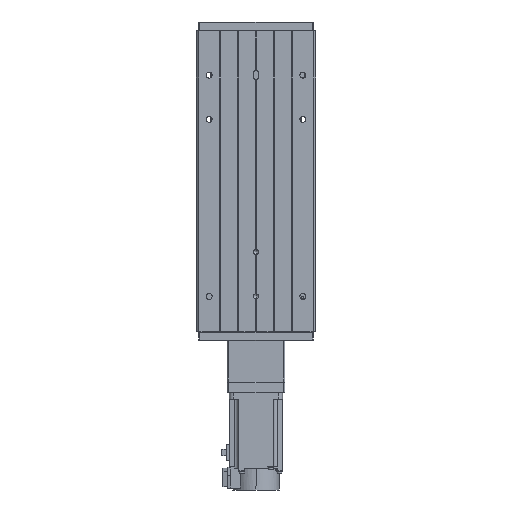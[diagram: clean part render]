
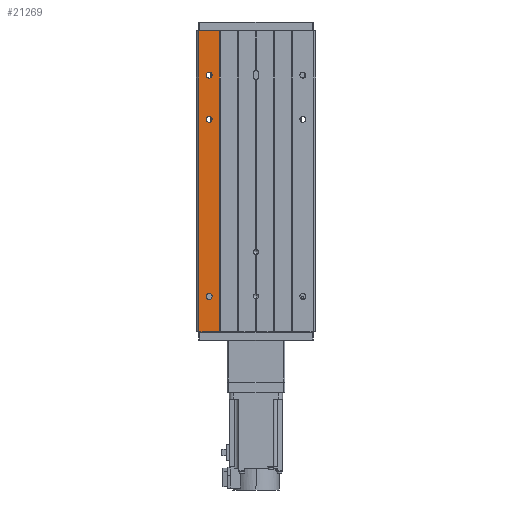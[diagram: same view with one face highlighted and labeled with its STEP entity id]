
A CAD part, front view. The second image highlights one B-rep face of the part: STEP entity #21269.
In plain terms, the highlighted planar face has unit normal (0, -1, 0).
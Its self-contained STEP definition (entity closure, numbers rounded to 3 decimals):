
#759 = DIRECTION ( 'NONE',  ( 0., 0., -1. ) ) ;
#981 = VERTEX_POINT ( 'NONE', #10229 ) ;
#1872 = DIRECTION ( 'NONE',  ( 0., 0., -1. ) ) ;
#2245 = ORIENTED_EDGE ( 'NONE', *, *, #33504, .F. ) ;
#2316 = EDGE_CURVE ( 'NONE', #981, #8181, #17003, .T. ) ;
#2520 = CARTESIAN_POINT ( 'NONE',  ( 40., -1., 170. ) ) ;
#2609 = DIRECTION ( 'NONE',  ( 0., 0., -1. ) ) ;
#3044 = EDGE_CURVE ( 'NONE', #19194, #27299, #34225, .T. ) ;
#3794 = VERTEX_POINT ( 'NONE', #36148 ) ;
#4065 = EDGE_LOOP ( 'NONE', ( #15299, #6210 ) ) ;
#4307 = EDGE_LOOP ( 'NONE', ( #9360, #35385, #38366, #33529 ) ) ;
#4655 = CARTESIAN_POINT ( 'NONE',  ( 53., -1., -123.4 ) ) ;
#4982 = CARTESIAN_POINT ( 'NONE',  ( 53., -1., -70. ) ) ;
#5363 = CIRCLE ( 'NONE', #27586, 3.4 ) ;
#5524 = FACE_BOUND ( 'NONE', #12692, .T. ) ;
#6210 = ORIENTED_EDGE ( 'NONE', *, *, #36016, .F. ) ;
#6524 = VECTOR ( 'NONE', #1872, 1000. ) ;
#6965 = CARTESIAN_POINT ( 'NONE',  ( 64.5, -1., -170. ) ) ;
#7107 = DIRECTION ( 'NONE',  ( 0., -1., 0. ) ) ;
#7588 = ORIENTED_EDGE ( 'NONE', *, *, #26539, .F. ) ;
#8181 = VERTEX_POINT ( 'NONE', #28935 ) ;
#8737 = CARTESIAN_POINT ( 'NONE',  ( 40., -1., -170. ) ) ;
#9087 = DIRECTION ( 'NONE',  ( 0., 0., -1. ) ) ;
#9360 = ORIENTED_EDGE ( 'NONE', *, *, #32966, .T. ) ;
#9998 = CARTESIAN_POINT ( 'NONE',  ( 64.5, -1., -170. ) ) ;
#10229 = CARTESIAN_POINT ( 'NONE',  ( 41., -1., 170. ) ) ;
#11413 = VERTEX_POINT ( 'NONE', #37500 ) ;
#12047 = DIRECTION ( 'NONE',  ( 0., -1., 0. ) ) ;
#12417 = AXIS2_PLACEMENT_3D ( 'NONE', #39316, #12047, #24173 ) ;
#12692 = EDGE_LOOP ( 'NONE', ( #2245, #16422 ) ) ;
#13817 = LINE ( 'NONE', #25955, #28272 ) ;
#14356 = AXIS2_PLACEMENT_3D ( 'NONE', #34361, #7107, #19237 ) ;
#14643 = DIRECTION ( 'NONE',  ( 0., 1., 0. ) ) ;
#15299 = ORIENTED_EDGE ( 'NONE', *, *, #18197, .F. ) ;
#15505 = CIRCLE ( 'NONE', #37756, 3.4 ) ;
#15857 = CARTESIAN_POINT ( 'NONE',  ( 53., -1., -120. ) ) ;
#16422 = ORIENTED_EDGE ( 'NONE', *, *, #22709, .F. ) ;
#16695 = AXIS2_PLACEMENT_3D ( 'NONE', #24195, #36337, #9087 ) ;
#16971 = EDGE_CURVE ( 'NONE', #32255, #26272, #33855, .T. ) ;
#17003 = LINE ( 'NONE', #29138, #6524 ) ;
#17108 = DIRECTION ( 'NONE',  ( 0., -1., 0. ) ) ;
#17648 = FACE_OUTER_BOUND ( 'NONE', #4307, .T. ) ;
#17730 = CARTESIAN_POINT ( 'NONE',  ( 53., -1., -70. ) ) ;
#17803 = CARTESIAN_POINT ( 'NONE',  ( 53., -1., 126.6 ) ) ;
#18197 = EDGE_CURVE ( 'NONE', #11413, #20932, #5363, .T. ) ;
#19077 = DIRECTION ( 'NONE',  ( 0., 0., 1. ) ) ;
#19194 = VERTEX_POINT ( 'NONE', #9998 ) ;
#19237 = DIRECTION ( 'NONE',  ( 0., 0., -1. ) ) ;
#20453 = EDGE_CURVE ( 'NONE', #981, #27299, #13817, .T. ) ;
#20623 = FACE_BOUND ( 'NONE', #4065, .T. ) ;
#20857 = DIRECTION ( 'NONE',  ( 1., 0., 0. ) ) ;
#20932 = VERTEX_POINT ( 'NONE', #29271 ) ;
#21080 = AXIS2_PLACEMENT_3D ( 'NONE', #15857, #27997, #759 ) ;
#21264 = VECTOR ( 'NONE', #20857, 1000. ) ;
#21269 = ADVANCED_FACE ( 'NONE', ( #20623, #32780, #5524, #17648 ), #29783, .F. ) ;
#22709 = EDGE_CURVE ( 'NONE', #3794, #30657, #38253, .T. ) ;
#24173 = DIRECTION ( 'NONE',  ( 0., 0., -1. ) ) ;
#24195 = CARTESIAN_POINT ( 'NONE',  ( 53., -1., 130. ) ) ;
#24342 = CARTESIAN_POINT ( 'NONE',  ( 64.5, -1., 170. ) ) ;
#24487 = CIRCLE ( 'NONE', #12417, 3.4 ) ;
#25955 = CARTESIAN_POINT ( 'NONE',  ( 40., -1., 170. ) ) ;
#26272 = VERTEX_POINT ( 'NONE', #29824 ) ;
#26326 = EDGE_LOOP ( 'NONE', ( #29562, #7588 ) ) ;
#26539 = EDGE_CURVE ( 'NONE', #26272, #32255, #31492, .T. ) ;
#26788 = DIRECTION ( 'NONE',  ( -1., 0., 0. ) ) ;
#27299 = VERTEX_POINT ( 'NONE', #24342 ) ;
#27586 = AXIS2_PLACEMENT_3D ( 'NONE', #4982, #17108, #29244 ) ;
#27997 = DIRECTION ( 'NONE',  ( 0., -1., 0. ) ) ;
#28272 = VECTOR ( 'NONE', #38085, 1000. ) ;
#28935 = CARTESIAN_POINT ( 'NONE',  ( 41., -1., -170. ) ) ;
#28961 = AXIS2_PLACEMENT_3D ( 'NONE', #2520, #14643, #26788 ) ;
#29138 = CARTESIAN_POINT ( 'NONE',  ( 41., -1., 170. ) ) ;
#29244 = DIRECTION ( 'NONE',  ( 0., 0., -1. ) ) ;
#29271 = CARTESIAN_POINT ( 'NONE',  ( 53., -1., -66.6 ) ) ;
#29562 = ORIENTED_EDGE ( 'NONE', *, *, #16971, .F. ) ;
#29783 = PLANE ( 'NONE',  #28961 ) ;
#29824 = CARTESIAN_POINT ( 'NONE',  ( 53., -1., 133.4 ) ) ;
#29865 = DIRECTION ( 'NONE',  ( 0., -1., 0. ) ) ;
#30657 = VERTEX_POINT ( 'NONE', #4655 ) ;
#30771 = VECTOR ( 'NONE', #19077, 1000. ) ;
#31492 = CIRCLE ( 'NONE', #14356, 3.4 ) ;
#32255 = VERTEX_POINT ( 'NONE', #17803 ) ;
#32780 = FACE_BOUND ( 'NONE', #26326, .T. ) ;
#32966 = EDGE_CURVE ( 'NONE', #8181, #19194, #35996, .T. ) ;
#33504 = EDGE_CURVE ( 'NONE', #30657, #3794, #24487, .T. ) ;
#33529 = ORIENTED_EDGE ( 'NONE', *, *, #2316, .T. ) ;
#33855 = CIRCLE ( 'NONE', #16695, 3.4 ) ;
#34225 = LINE ( 'NONE', #6965, #30771 ) ;
#34361 = CARTESIAN_POINT ( 'NONE',  ( 53., -1., 130. ) ) ;
#35385 = ORIENTED_EDGE ( 'NONE', *, *, #3044, .T. ) ;
#35996 = LINE ( 'NONE', #8737, #21264 ) ;
#36016 = EDGE_CURVE ( 'NONE', #20932, #11413, #15505, .T. ) ;
#36148 = CARTESIAN_POINT ( 'NONE',  ( 53., -1., -116.6 ) ) ;
#36337 = DIRECTION ( 'NONE',  ( 0., -1., 0. ) ) ;
#37500 = CARTESIAN_POINT ( 'NONE',  ( 53., -1., -73.4 ) ) ;
#37756 = AXIS2_PLACEMENT_3D ( 'NONE', #17730, #29865, #2609 ) ;
#38085 = DIRECTION ( 'NONE',  ( 1., 0., 0. ) ) ;
#38253 = CIRCLE ( 'NONE', #21080, 3.4 ) ;
#38366 = ORIENTED_EDGE ( 'NONE', *, *, #20453, .F. ) ;
#39316 = CARTESIAN_POINT ( 'NONE',  ( 53., -1., -120. ) ) ;
